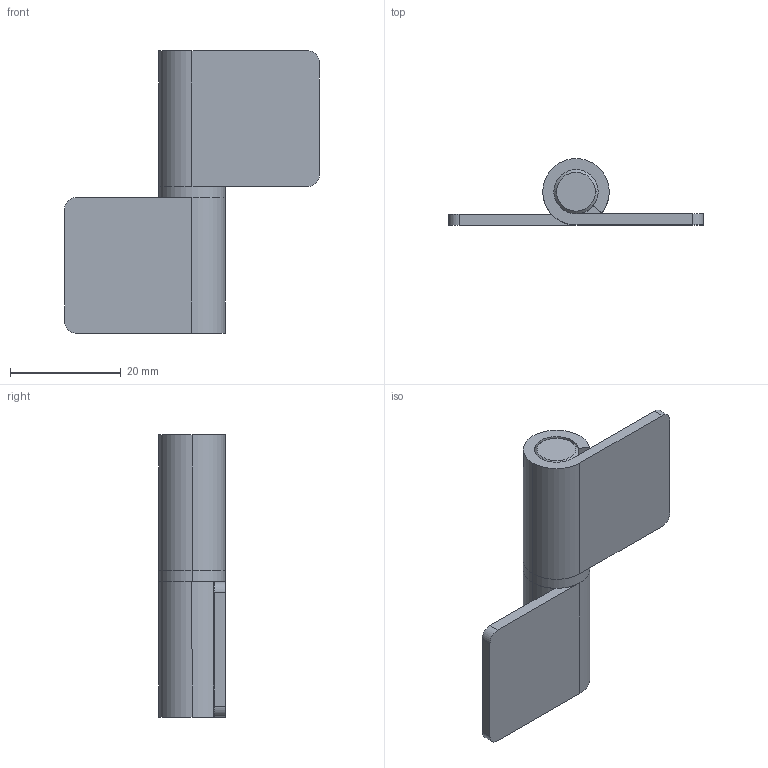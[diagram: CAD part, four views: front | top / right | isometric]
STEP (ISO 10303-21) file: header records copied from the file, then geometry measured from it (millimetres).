
FILE_DESCRIPTION (( 'STEP AP203' ), '1' );
FILE_NAME ('XG02-091-2.STEP', '2023-12-21T10:32:50', ( '' ), ( '' ), 'SwSTEP 2.0', 'SolidWorks 2020', '' );
FILE_SCHEMA (( 'CONFIG_CONTROL_DESIGN' ));
Length unit declared in the file: millimetre
Products named in the file (3): 091粣; XG11-091-1-1; XG02-091-2
Assembly tree (3 placements, depth 2):
  XG02-091-2
    XG11-091-1-1  x2
    091粣
Bounding box: 46 x 12 x 51 mm (x, y, z)
Volume: 7575.5 mm3; surface area: 6999.1 mm2
Topology: 3 solids, 3 shells, 42 faces, 98 edges, 64 vertices
Faces by surface type: cylinder 22, plane 16, cone 4
Entity records: 1123 total; most frequent: DIRECTION 162, CARTESIAN_POINT 136, ORIENTED_EDGE 124, AXIS2_PLACEMENT_3D 66, EDGE_CURVE 62, VERTEX_POINT 40, CIRCLE 32, LINE 30
